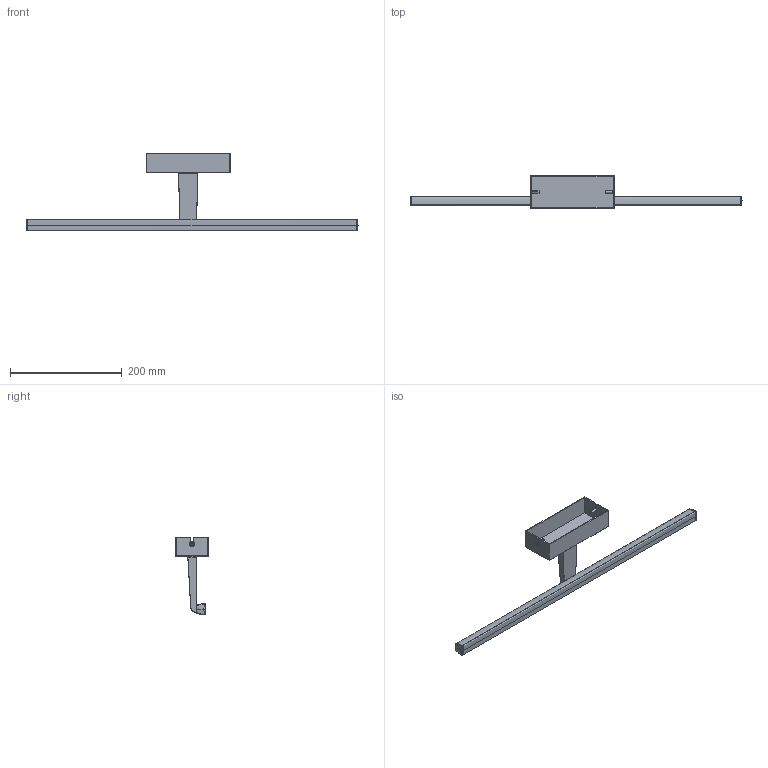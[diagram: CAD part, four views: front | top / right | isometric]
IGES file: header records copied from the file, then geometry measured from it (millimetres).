
Start section: SolidWorks IGES file using analytic representation for surfaces
Global section: file name: F:\GABRYSIA\MODELE 3D\VAN GOGH_M_9347_9350_9352_WWW\VAN_GOGH_LED_M_9347_9350_9352.IGS; native system: SolidWorks 2017; preprocessor: SolidWorks 2017; author: Togambi; date: 200804.144002; units: millimetre
Bounding box: 594.6 x 60 x 138.81 mm (x, y, z)
Surface area: 136042.5 mm2 (no closed solid volume)
Topology: 0 solids, 0 shells, 188 faces, 1591 edges, 1568 vertices
Faces by surface type: bspline 114, revolution 74
